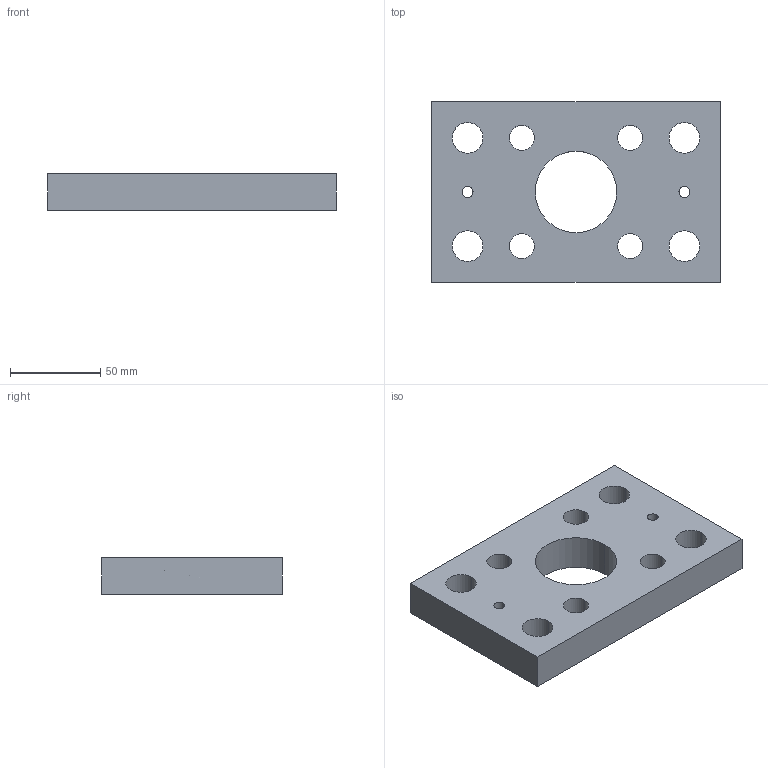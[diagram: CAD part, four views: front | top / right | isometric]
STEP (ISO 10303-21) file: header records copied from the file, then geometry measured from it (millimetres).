
FILE_DESCRIPTION (( 'STEP AP214' ), '1' );
FILE_NAME ('3D3.PS-58E.STEP', '2014-04-08T09:04:04', ( 'usuario' ), ( 'Hewlett-Packard Company' ), 'SwSTEP 2.0', 'SolidWorks 2017', '' );
FILE_SCHEMA (( 'AUTOMOTIVE_DESIGN' ));
Length unit declared in the file: millimetre
Products named in the file (1): 3D3.PS-58E
Bounding box: 160 x 100 x 20 mm (x, y, z)
Volume: 256875.5 mm3; surface area: 47418.6 mm2
Topology: 1 solids, 1 shells, 28 faces, 78 edges, 52 vertices
Faces by surface type: cylinder 22, plane 6
Entity records: 1004 total; most frequent: DIRECTION 180, CARTESIAN_POINT 159, ORIENTED_EDGE 156, EDGE_CURVE 78, AXIS2_PLACEMENT_3D 73, VERTEX_POINT 52, EDGE_LOOP 50, CIRCLE 44
